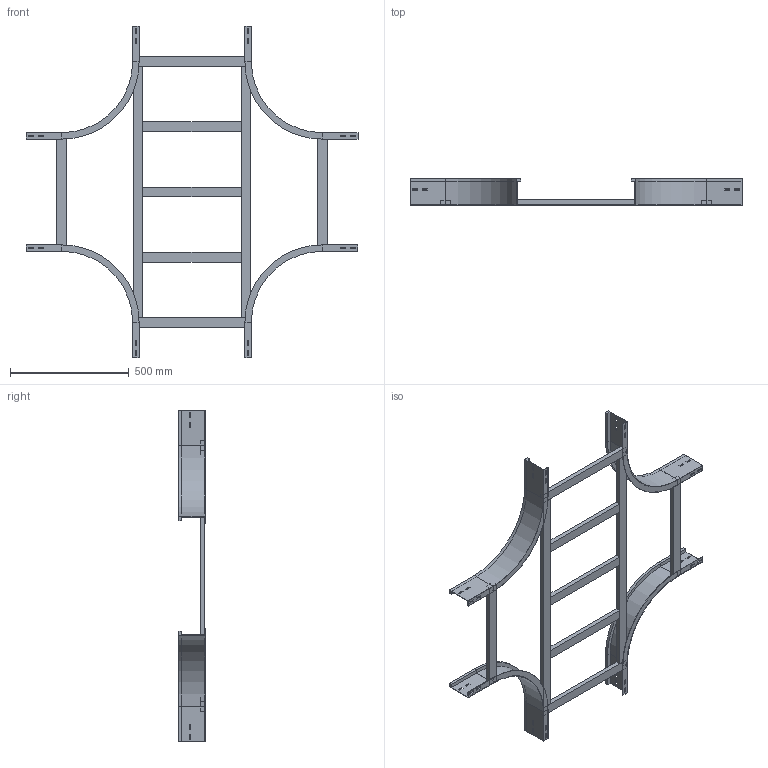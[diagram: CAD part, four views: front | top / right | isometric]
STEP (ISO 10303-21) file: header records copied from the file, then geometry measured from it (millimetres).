
FILE_DESCRIPTION (( 'STEP AP214' ), '1' );
FILE_NAME ('A2_17B3J500.step', '2025-02-21T15:56:47', ( '' ), ( '' ), 'SwSTEP 2.0', 'SolidWorks 2023', '' );
FILE_SCHEMA (( 'AUTOMOTIVE_DESIGN' ));
Length unit declared in the file: millimetre
Products named in the file (5): A2_17B3J500; TRAVERSINO_500; A2_TRAVERSINO_LONG._R300+500; A2_LONGH.INTERNO 90°_H112.5_R300; TRAVERSINO_INTERMEDIO_R300+500
Assembly tree (13 placements, depth 2):
  A2_17B3J500
    A2_LONGH.INTERNO 90°_H112.5_R300  x4
    TRAVERSINO_500  x4
    A2_TRAVERSINO_LONG._R300+500  x2
    TRAVERSINO_INTERMEDIO_R300+500  x3
Bounding box: 1400 x 112.5 x 1400 mm (x, y, z)
Volume: 5780731 mm3; surface area: 1628226.5 mm2
Topology: 13 solids, 13 shells, 286 faces, 716 edges, 456 vertices
Faces by surface type: plane 270, cylinder 16
Entity records: 2450 total; most frequent: CARTESIAN_POINT 400, DIRECTION 380, ORIENTED_EDGE 376, EDGE_CURVE 188, LINE 180, VECTOR 180, VERTEX_POINT 120, AXIS2_PLACEMENT_3D 100
